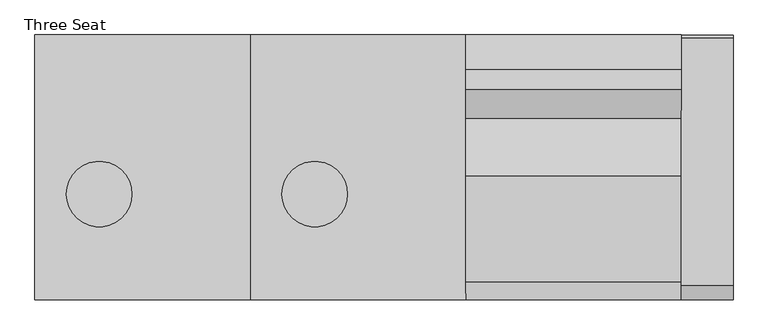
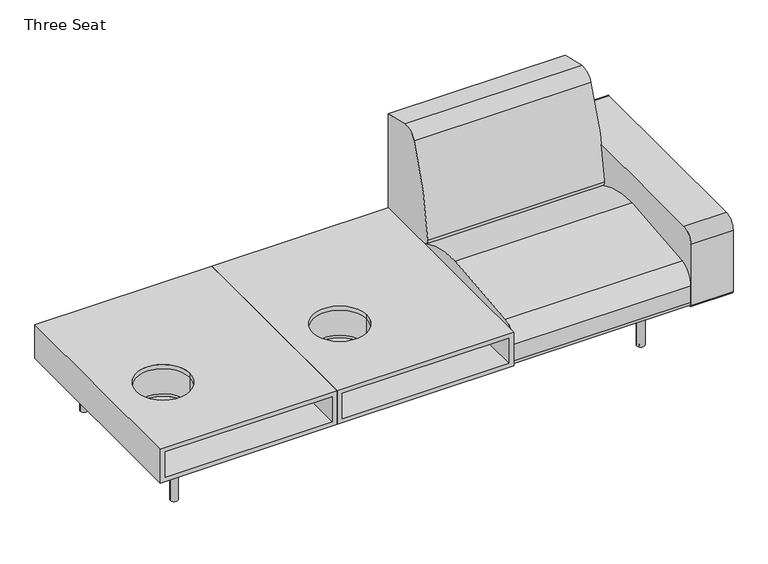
"""IFC4 building model written with IfcOpenShell, lengths in millimetres: furniture geometry, Coalesse_AM_Seating_LoungeChair_Sistema_LegBase_ThreeSeat : Three Seat."""

from ifc_helpers import new_model, si_unit, point, frame, frame_2d, origin, origin_with_axes, place, context, project, spatial, polyline, circle_curve, trimmed, segment, composite_curve, outline, extrude, source, transform, mapped, element, save
from ifc_brep_helpers import plane_surface, revolved_surface, advanced_brep


def three_seat_b5197ebf(model_context):
    return source(origin(), model_context, "Body", "SolidModel", [
        advanced_brep(
        [(-353.0071698, -461.2704381, 336.5211742), (-353.0071698, -461.2704381, 223.173587), (-353.0071698, 459.4795619, 223.173587), (-353.0071698, 459.4795619, 336.5211742), (353.6069667, -461.2704381, 336.5211742), (353.6069667, 459.4795619, 336.5211742), (-37.7047777, -93.7879891, 336.5211742), (-265.0667966, -93.7879891, 336.5211742), (374.4965227, -461.2704381, 354.7774), (-374.8034773, -461.2704381, 354.7774), (-374.8034773, -461.2704381, 204.47), (374.4965227, -461.2704381, 204.47), (353.6069667, -461.2704381, 223.173587), (374.4965227, 459.4795619, 354.7774), (374.4965227, 459.4795619, 204.47), (-374.8034773, 459.4795619, 204.47), (-374.8034773, 459.4795619, 354.7774), (353.6069667, 459.4795619, 223.173587), (-265.0667966, -93.7879891, 354.7774), (-37.7047777, -93.7879891, 354.7774), (-265.0667966, -93.7879891, 223.173587), (-37.7047777, -93.7879891, 223.173587), (-265.0667966, -93.7879891, 212.4123377), (-37.7047777, -93.7879891, 212.4123377)],
        [
            (0, 1),
            (1, 2),
            (2, 3),
            (3, 0),
            (4, 0),
            (3, 5),
            (5, 4),
            (6, 7, circle_curve(frame((-151.3857872, -93.7879891, 336.5211742), z_axis=(0.0, 0.0, 1.0), x_axis=(1.0, 0.0, 0.0)), 113.6810095)),
            (7, 6, circle_curve(frame((-151.3857872, -93.7879891, 336.5211742), z_axis=(0.0, 0.0, 1.0), x_axis=(1.0, 0.0, 0.0)), 113.6810095)),
            (8, 9),
            (9, 10),
            (10, 11),
            (11, 8),
            (4, 12),
            (12, 1),
            (13, 14),
            (14, 15),
            (15, 16),
            (16, 13),
            (2, 17),
            (17, 5),
            (8, 13),
            (16, 9),
            (18, 19, circle_curve(frame((-151.3857872, -93.7879891, 354.7774), z_axis=(0.0, 0.0, -1.0), x_axis=(1.0, 0.0, 0.0)), 113.6810095)),
            (19, 18, circle_curve(frame((-151.3857872, -93.7879891, 354.7774), z_axis=(0.0, 0.0, -1.0), x_axis=(1.0, 0.0, 0.0)), 113.6810095)),
            (15, 10),
            (14, 11),
            (17, 12),
            (20, 21, circle_curve(frame((-151.3857872, -93.7879891, 223.173587), z_axis=(0.0, 0.0, -1.0), x_axis=(1.0, 0.0, 0.0)), 113.6810095)),
            (21, 20, circle_curve(frame((-151.3857872, -93.7879891, 223.173587), z_axis=(0.0, 0.0, -1.0), x_axis=(1.0, 0.0, 0.0)), 113.6810095)),
            (22, 23, circle_curve(frame((-151.3857872, -93.7879891, 212.4123377), z_axis=(0.0, 0.0, 1.0), x_axis=(1.0, 0.0, 0.0)), 113.6810095)),
            (23, 22, circle_curve(frame((-151.3857872, -93.7879891, 212.4123377), z_axis=(0.0, 0.0, 1.0), x_axis=(1.0, 0.0, 0.0)), 113.6810095)),
            (23, 21),
            (20, 22),
            (18, 7),
            (6, 19),
        ],
        [
            plane_surface(frame((-353.0071698, -461.2704381, 223.173587), z_axis=(1.0, 0.0, 0.0), x_axis=(0.0, 1.0, 0.0))),
            plane_surface(frame((-353.0071698, -461.2704381, 336.5211742), z_axis=(0.0, 0.0, -1.0), x_axis=(0.0, 1.0, 0.0))),
            plane_surface(frame((-371.2653576, -461.2704381, 354.7774), z_axis=(0.0, -1.0, 0.0), x_axis=(-1.0, 0.0, 0.0))),
            plane_surface(frame((-371.2653576, 459.4795619, 354.7774), z_axis=(0.0, 1.0, 0.0), x_axis=(1.0, 0.0, 0.0))),
            plane_surface(frame((374.4965227, -461.2704381, 354.7774), z_axis=(0.0, 0.0, 1.0), x_axis=(0.0, 1.0, 0.0))),
            plane_surface(frame((-374.8034773, -461.2704381, 354.7774), z_axis=(-1.0, 0.0, 0.0), x_axis=(0.0, 1.0, 0.0))),
            plane_surface(frame((-374.8034773, -461.2704381, 204.47), z_axis=(0.0, 0.0, -1.0), x_axis=(0.0, 1.0, 0.0))),
            plane_surface(frame((374.4965227, -461.2704381, 204.47), z_axis=(1.0, 0.0, 0.0), x_axis=(0.0, 1.0, 0.0))),
            plane_surface(frame((353.6069667, -461.2704381, 336.5211742), z_axis=(-1.0, 0.0, 0.0), x_axis=(0.0, 1.0, 0.0))),
            plane_surface(frame((353.6069667, -461.2704381, 223.173587), z_axis=(0.0, 0.0, 1.0), x_axis=(0.0, 1.0, 0.0))),
            plane_surface(frame((-37.7047777, -93.7879891, 212.4123377), z_axis=(0.0, 0.0, 1.0), x_axis=(0.0, -1.0, 0.0))),
            revolved_surface(polyline([(-37.70477770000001, -93.7879891, 212.4123377), (-37.70477770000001, -93.7879891, 223.173587)]), (-151.3857872, -93.7879891, 446.6108932), (0.0, 0.0, -1.0)),
            revolved_surface(polyline([(-37.70477770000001, -93.7879891, 336.5211742), (-37.70477770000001, -93.7879891, 354.7774)]), (-151.3857872, -93.7879891, 446.6108932), (0.0, 0.0, -1.0)),
        ],
        [
            (0, [[1, 2, 3, 4]]),
            (1, [[5, -4, 6, 7], [8, 9]]),
            (2, [[10, 11, 12, 13], [14, 15, -1, -5]]),
            (3, [[16, 17, 18, 19], [-6, -3, 20, 21]]),
            (4, [[-10, 22, -19, 23], [24, 25]]),
            (5, [[-11, -23, -18, 26]]),
            (6, [[-12, -26, -17, 27]]),
            (7, [[-13, -27, -16, -22]]),
            (8, [[-14, -7, -21, 28]]),
            (9, [[-15, -28, -20, -2], [29, 30]]),
            (10, [[31, 32]]),
            (11, [[-32, 33, -29, 34]]),
            (12, [[35, -8, 36, -24]]),
            (12, [[-35, -25, -36, -9]]),
            (11, [[-31, -34, -30, -33]]),
        ],
    ),
        extrude(outline(composite_curve([segment(trimmed(circle_curve(frame_2d((-151.3857872, -93.7879891)), 127.924967), [point((-279.3107542, -93.7879891))], [point((-23.4608201, -93.7879891))], False, "CARTESIAN"), True, "CONTINUOUS"), segment(trimmed(circle_curve(frame_2d((-151.3857872, -93.7879891)), 127.924967), [point((-23.4608201, -93.7879891))], [point((-279.3107542, -93.7879891))], False, "CARTESIAN"), True, "CONTINUOUS")], self_intersect=False), holes=[composite_curve([segment(trimmed(circle_curve(frame_2d((-151.3857872, -93.7879891)), 113.6810095), [point((-265.0667966, -93.7879891))], [point((-37.7047777, -93.7879891))], True, "CARTESIAN"), True, "CONTINUOUS"), segment(trimmed(circle_curve(frame_2d((-151.3857872, -93.7879891)), 113.6810095), [point((-37.7047777, -93.7879891))], [point((-265.0667966, -93.7879891))], True, "CARTESIAN"), True, "CONTINUOUS")], self_intersect=False)]), frame((0.0, 0.0, 212.4123377), z_axis=(0.0, 0.0, 1.0), x_axis=(1.0, 0.0, 0.0)), (0.0, 0.0, 1.0), 124.1087275),
        advanced_brep(
        [(1102.9069667, -461.2704381, 336.5211742), (396.2928302, -461.2704381, 336.5211742), (396.2928302, 459.4795619, 336.5211742), (1102.9069667, 459.4795619, 336.5211742), (711.5952223, -93.7879891, 336.5211742), (484.2332034, -93.7879891, 336.5211742), (396.2928302, -461.2704381, 223.173587), (396.2928302, 459.4795619, 223.173587), (1123.7965227, -461.2704381, 354.7774), (374.4965227, -461.2704381, 354.7774), (374.4965227, -461.2704381, 204.47), (1123.7965227, -461.2704381, 204.47), (1102.9069667, -461.2704381, 223.173587), (1123.7965227, 459.4795619, 354.7774), (1123.7965227, 459.4795619, 204.47), (374.4965227, 459.4795619, 204.47), (374.4965227, 459.4795619, 354.7774), (1102.9069667, 459.4795619, 223.173587), (484.2332034, -93.7879891, 354.7774), (711.5952223, -93.7879891, 354.7774), (484.2332034, -93.7879891, 223.173587), (711.5952223, -93.7879891, 223.173587), (484.2332034, -93.7879891, 212.4123377), (711.5952223, -93.7879891, 212.4123377)],
        [
            (0, 1),
            (1, 2),
            (2, 3),
            (3, 0),
            (4, 5, circle_curve(frame((597.9142128, -93.7879891, 336.5211742), z_axis=(0.0, 0.0, 1.0), x_axis=(1.0, 0.0, 0.0)), 113.6810095)),
            (5, 4, circle_curve(frame((597.9142128, -93.7879891, 336.5211742), z_axis=(0.0, 0.0, 1.0), x_axis=(1.0, 0.0, 0.0)), 113.6810095)),
            (1, 6),
            (6, 7),
            (7, 2),
            (8, 9),
            (9, 10),
            (10, 11),
            (11, 8),
            (0, 12),
            (12, 6),
            (13, 14),
            (14, 15),
            (15, 16),
            (16, 13),
            (7, 17),
            (17, 3),
            (8, 13),
            (16, 9),
            (18, 19, circle_curve(frame((597.9142128, -93.7879891, 354.7774), z_axis=(0.0, 0.0, -1.0), x_axis=(1.0, 0.0, 0.0)), 113.6810095)),
            (19, 18, circle_curve(frame((597.9142128, -93.7879891, 354.7774), z_axis=(0.0, 0.0, -1.0), x_axis=(1.0, 0.0, 0.0)), 113.6810095)),
            (15, 10),
            (14, 11),
            (17, 12),
            (20, 21, circle_curve(frame((597.9142128, -93.7879891, 223.173587), z_axis=(0.0, 0.0, -1.0), x_axis=(1.0, 0.0, 0.0)), 113.6810095)),
            (21, 20, circle_curve(frame((597.9142128, -93.7879891, 223.173587), z_axis=(0.0, 0.0, -1.0), x_axis=(1.0, 0.0, 0.0)), 113.6810095)),
            (22, 23, circle_curve(frame((597.9142128, -93.7879891, 212.4123377), z_axis=(0.0, 0.0, 1.0), x_axis=(1.0, 0.0, 0.0)), 113.6810095)),
            (23, 22, circle_curve(frame((597.9142128, -93.7879891, 212.4123377), z_axis=(0.0, 0.0, 1.0), x_axis=(1.0, 0.0, 0.0)), 113.6810095)),
            (23, 21),
            (20, 22),
            (18, 5),
            (4, 19),
        ],
        [
            plane_surface(frame((396.2928302, -461.2704381, 336.5211742), z_axis=(0.0, 0.0, -1.0), x_axis=(0.0, 1.0, 0.0))),
            plane_surface(frame((396.2928302, -461.2704381, 223.173587), z_axis=(1.0, 0.0, 0.0), x_axis=(0.0, 1.0, 0.0))),
            plane_surface(frame((378.0346424, -461.2704381, 354.7774), z_axis=(0.0, -1.0, 0.0), x_axis=(-1.0, 0.0, 0.0))),
            plane_surface(frame((378.0346424, 459.4795619, 354.7774), z_axis=(0.0, 1.0, 0.0), x_axis=(1.0, 0.0, 0.0))),
            plane_surface(frame((1123.7965227, -461.2704381, 354.7774), z_axis=(0.0, 0.0, 1.0), x_axis=(0.0, 1.0, 0.0))),
            plane_surface(frame((374.4965227, -461.2704381, 354.7774), z_axis=(-1.0, 0.0, 0.0), x_axis=(0.0, 1.0, 0.0))),
            plane_surface(frame((374.4965227, -461.2704381, 204.47), z_axis=(0.0, 0.0, -1.0), x_axis=(0.0, 1.0, 0.0))),
            plane_surface(frame((1123.7965227, -461.2704381, 204.47), z_axis=(1.0, 0.0, 0.0), x_axis=(0.0, 1.0, 0.0))),
            plane_surface(frame((1102.9069667, -461.2704381, 336.5211742), z_axis=(-1.0, 0.0, 0.0), x_axis=(0.0, 1.0, 0.0))),
            plane_surface(frame((1102.9069667, -461.2704381, 223.173587), z_axis=(0.0, 0.0, 1.0), x_axis=(0.0, 1.0, 0.0))),
            plane_surface(frame((711.5952223, -93.7879891, 212.4123377), z_axis=(0.0, 0.0, 1.0), x_axis=(0.0, -1.0, 0.0))),
            revolved_surface(polyline([(711.5952222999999, -93.7879891, 212.41233770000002), (711.5952222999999, -93.7879891, 223.173587)]), (597.9142128, -93.7879891, 496.2226929), (0.0, 0.0, -1.0)),
            revolved_surface(polyline([(711.5952222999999, -93.7879891, 336.5211742), (711.5952222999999, -93.7879891, 354.7774)]), (597.9142128, -93.7879891, 496.2226929), (0.0, 0.0, -1.0)),
        ],
        [
            (0, [[1, 2, 3, 4], [5, 6]]),
            (1, [[7, 8, 9, -2]]),
            (2, [[10, 11, 12, 13], [14, 15, -7, -1]]),
            (3, [[16, 17, 18, 19], [-3, -9, 20, 21]]),
            (4, [[-10, 22, -19, 23], [24, 25]]),
            (5, [[-11, -23, -18, 26]]),
            (6, [[-12, -26, -17, 27]]),
            (7, [[-13, -27, -16, -22]]),
            (8, [[-14, -4, -21, 28]]),
            (9, [[-15, -28, -20, -8], [29, 30]]),
            (10, [[31, 32]]),
            (11, [[-32, 33, -29, 34]]),
            (12, [[35, -5, 36, -24]]),
            (11, [[-31, -34, -30, -33]]),
            (12, [[-35, -25, -36, -6]]),
        ],
    ),
        extrude(outline(composite_curve([segment(trimmed(circle_curve(frame_2d((597.9142128, -93.7879891)), 127.924967), [point((469.9892458, -93.7879891))], [point((725.8391799, -93.7879891))], False, "CARTESIAN"), True, "CONTINUOUS"), segment(trimmed(circle_curve(frame_2d((597.9142128, -93.7879891)), 127.924967), [point((725.8391799, -93.7879891))], [point((469.9892458, -93.7879891))], False, "CARTESIAN"), True, "CONTINUOUS")], self_intersect=False), holes=[composite_curve([segment(trimmed(circle_curve(frame_2d((597.9142128, -93.7879891)), 113.6810095), [point((484.2332034, -93.7879891))], [point((711.5952223, -93.7879891))], True, "CARTESIAN"), True, "CONTINUOUS"), segment(trimmed(circle_curve(frame_2d((597.9142128, -93.7879891)), 113.6810095), [point((711.5952223, -93.7879891))], [point((484.2332034, -93.7879891))], True, "CARTESIAN"), True, "CONTINUOUS")], self_intersect=False)]), frame((0.0, 0.0, 212.4123377), z_axis=(0.0, 0.0, 1.0), x_axis=(1.0, 0.0, 0.0)), (0.0, 0.0, 1.0), 124.1087275),
        extrude(outline(composite_curve([segment(polyline([(-461.2704381, 212.4103341), (-461.2704381, 487.0244726)]), True, "CONTINUOUS"), segment(trimmed(circle_curve(frame_2d((-410.4704381, 487.0244726)), 50.8), [point((-461.2704381, 487.0244726))], [point((-410.4704381, 537.8244726))], False, "CARTESIAN"), True, "CONTINUOUS"), segment(polyline([(-410.4704381, 537.8244726), (450.1139321, 537.8244726)]), True, "CONTINUOUS"), segment(trimmed(circle_curve(frame_2d((450.1139321, 530.2044726)), 7.62), [point((450.1139321, 537.8244726))], [point((457.7339321, 530.2044726))], False, "CARTESIAN"), True, "CONTINUOUS"), segment(polyline([(457.7339321, 530.2044726), (457.7339321, 217.4903341)]), True, "CONTINUOUS"), segment(trimmed(circle_curve(frame_2d((445.0339321, 217.4903341)), 12.7), [point((457.7339321, 217.4903341))], [point((445.0339321, 204.7903341))], False, "CARTESIAN"), True, "CONTINUOUS"), segment(polyline([(445.0339321, 204.7903341), (-453.6504381, 204.7903341)]), True, "CONTINUOUS"), segment(trimmed(circle_curve(frame_2d((-453.6504381, 212.4103341)), 7.62), [point((-453.6504381, 204.7903341))], [point((-461.2704381, 212.4103341))], False, "CARTESIAN"), True, "CONTINUOUS")], self_intersect=False)), frame((1873.0965227, 0.0, 0.0), z_axis=(1.0, 0.0, 0.0), x_axis=(0.0, 1.0, 0.0)), (0.0, 0.0, 1.0), 179.5663651),
        extrude(outline(composite_curve([segment(polyline([(459.4795619, 775.8234697), (459.4795619, 228.1929806)]), True, "CONTINUOUS"), segment(trimmed(circle_curve(frame_2d((191.495971, 228.1929806)), 267.983591), [point((459.4795619, 228.1929806))], [point((458.9860775, 211.937276))], False, "CARTESIAN"), True, "CONTINUOUS"), segment(polyline([(458.9860775, 211.937276), (183.8457951, 360.6719742)]), True, "CONTINUOUS"), segment(trimmed(circle_curve(frame_2d((195.9245701, 383.0161724)), 25.4), [point((183.8457951, 360.6719742))], [point((170.6161698, 385.1713698))], False, "CARTESIAN"), True, "CONTINUOUS"), segment(trimmed(circle_curve(frame_2d((1327.5544182, 286.6495247)), 1161.1256023), [point((170.6161698, 385.1713698))], [point((271.1088001, 768.4537592))], False, "CARTESIAN"), True, "CONTINUOUS"), segment(trimmed(circle_curve(frame_2d((326.5730192, 743.158661)), 60.96), [point((271.1088001, 768.4537592))], [point((339.9143278, 802.6408523))], False, "CARTESIAN"), True, "CONTINUOUS"), segment(polyline([(339.9143278, 802.6408523), (459.4795619, 775.8234697)]), True, "CONTINUOUS")], self_intersect=False)), frame((1123.7965227, 0.0, 0.0), z_axis=(1.0, 0.0, 0.0), x_axis=(0.0, 1.0, 0.0)), (0.0, 0.0, 1.0), 749.3),
        extrude(outline(composite_curve([segment(trimmed(circle_curve(frame_2d((-438.9184381, 226.822)), 22.352), [point((-438.9184381, 204.47))], [point((-461.2704381, 226.822))], False, "CARTESIAN"), True, "CONTINUOUS"), segment(polyline([(-461.2704381, 226.822), (-461.2704381, 301.4421993)]), True, "CONTINUOUS"), segment(trimmed(circle_curve(frame_2d((-385.0704381, 301.4421993)), 76.2), [point((-461.2704381, 301.4421993))], [point((-398.9277015, 376.3716077))], False, "CARTESIAN"), True, "CONTINUOUS"), segment(trimmed(circle_curve(frame_2d((2.2103559, -1792.6740646)), 2205.8265729), [point((-398.9277015, 376.3716077))], [point((-31.1968175, 412.8995185))], False, "CARTESIAN"), True, "CONTINUOUS"), segment(trimmed(circle_curve(frame_2d((-24.5128424, -28.3829182)), 441.333054), [point((-31.1968175, 412.8995185))], [point((184.5757008, 360.2774035))], False, "CARTESIAN"), True, "CONTINUOUS"), segment(polyline([(184.5757008, 360.2774035), (458.9860775, 211.937276)]), True, "CONTINUOUS"), segment(trimmed(circle_curve(frame_2d((442.3266309, 226.7871991)), 22.3171991), [point((458.9860775, 211.937276))], [point((442.3266309, 204.47))], False, "CARTESIAN"), True, "CONTINUOUS"), segment(polyline([(442.3266309, 204.47), (-438.9184381, 204.47)]), True, "CONTINUOUS")], self_intersect=False)), frame((1123.7965227, 0.0, 0.0), z_axis=(1.0, 0.0, 0.0), x_axis=(0.0, 1.0, 0.0)), (0.0, 0.0, 1.0), 749.3),
        extrude(outline(composite_curve([segment(trimmed(circle_curve(frame_2d((1738.4765227, 335.9943389)), 6.096), [point((1744.5725227, 335.9943389))], [point((1732.3805227, 335.9943389))], False, "CARTESIAN"), True, "CONTINUOUS"), segment(trimmed(circle_curve(frame_2d((1738.4765227, 335.9943389)), 6.096), [point((1732.3805227, 335.9943389))], [point((1744.5725227, 335.9943389))], False, "CARTESIAN"), True, "CONTINUOUS")], self_intersect=False)), origin_with_axes(), (0.0, 0.0, 1.0), 4.3662291),
        extrude(outline(composite_curve([segment(trimmed(circle_curve(frame_2d((1738.4765227, -327.2630889)), 6.096), [point((1744.5725227, -327.2630889))], [point((1732.3805227, -327.2630889))], False, "CARTESIAN"), True, "CONTINUOUS"), segment(trimmed(circle_curve(frame_2d((1738.4765227, -327.2630889)), 6.096), [point((1732.3805227, -327.2630889))], [point((1744.5725227, -327.2630889))], False, "CARTESIAN"), True, "CONTINUOUS")], self_intersect=False)), origin_with_axes(), (0.0, 0.0, 1.0), 4.3662291),
        extrude(outline(composite_curve([segment(polyline([(157.0399209, 1751.056375), (201.7356243, 1751.056375)]), True, "CONTINUOUS"), segment(trimmed(circle_curve(frame_2d((201.7356243, 1748.008375)), 3.048), [point((201.7356243, 1751.056375))], [point((204.7836243, 1748.008375))], False, "CARTESIAN"), True, "CONTINUOUS"), segment(polyline([(204.7836243, 1748.008375), (204.7836243, 1728.666199)]), True, "CONTINUOUS"), segment(trimmed(circle_curve(frame_2d((201.7356243, 1728.666199)), 3.048), [point((204.7836243, 1728.666199))], [point((201.7356243, 1725.618199))], False, "CARTESIAN"), True, "CONTINUOUS"), segment(polyline([(201.7356243, 1725.618199), (157.1249936, 1725.618199)]), True, "CONTINUOUS"), segment(trimmed(circle_curve(frame_2d((157.1249936, 1728.7512718)), 3.1330728), [point((157.1249936, 1725.618199))], [point((153.9919209, 1728.7512718))], False, "CARTESIAN"), True, "CONTINUOUS"), segment(polyline([(153.9919209, 1728.7512718), (153.9919209, 1748.008375)]), True, "CONTINUOUS"), segment(trimmed(circle_curve(frame_2d((157.0399209, 1748.008375)), 3.048), [point((153.9919209, 1748.008375))], [point((157.0399209, 1751.056375))], False, "CARTESIAN"), True, "CONTINUOUS")], self_intersect=False)), frame((0.0, 222.3519802, 0.0), z_axis=(0.0, 1.0, 0.0), x_axis=(0.0, 0.0, 1.0)), (0.0, 0.0, 1.0), 92.6273161),
        extrude(outline(composite_curve([segment(polyline([(157.0399209, 1751.056375), (201.7356243, 1751.056375)]), True, "CONTINUOUS"), segment(trimmed(circle_curve(frame_2d((201.7356243, 1748.008375)), 3.048), [point((201.7356243, 1751.056375))], [point((204.7836243, 1748.008375))], False, "CARTESIAN"), True, "CONTINUOUS"), segment(polyline([(204.7836243, 1748.008375), (204.7836243, 1728.666199)]), True, "CONTINUOUS"), segment(trimmed(circle_curve(frame_2d((201.7356243, 1728.666199)), 3.048), [point((204.7836243, 1728.666199))], [point((201.7356243, 1725.618199))], False, "CARTESIAN"), True, "CONTINUOUS"), segment(polyline([(201.7356243, 1725.618199), (157.1249936, 1725.618199)]), True, "CONTINUOUS"), segment(trimmed(circle_curve(frame_2d((157.1249936, 1728.7512718)), 3.1330728), [point((157.1249936, 1725.618199))], [point((153.9919209, 1728.7512718))], False, "CARTESIAN"), True, "CONTINUOUS"), segment(polyline([(153.9919209, 1728.7512718), (153.9919209, 1748.008375)]), True, "CONTINUOUS"), segment(trimmed(circle_curve(frame_2d((157.0399209, 1748.008375)), 3.048), [point((153.9919209, 1748.008375))], [point((157.0399209, 1751.056375))], False, "CARTESIAN"), True, "CONTINUOUS")], self_intersect=False)), frame((0.0, -314.9792963, 0.0), z_axis=(0.0, 1.0, 0.0), x_axis=(0.0, 0.0, 1.0)), (0.0, 0.0, 1.0), 92.6273161),
        extrude(outline(composite_curve([segment(trimmed(circle_curve(frame_2d((176.3356606, 1715.8259944)), 3.048), [point((179.3836606, 1715.8259944))], [point((176.3356606, 1712.7779944))], False, "CARTESIAN"), True, "CONTINUOUS"), segment(polyline([(176.3356606, 1712.7779944), (157.0399209, 1712.7779944)]), True, "CONTINUOUS"), segment(trimmed(circle_curve(frame_2d((157.0399209, 1715.8259944)), 3.048), [point((157.0399209, 1712.7779944))], [point((153.9919209, 1715.8259944))], False, "CARTESIAN"), True, "CONTINUOUS"), segment(polyline([(153.9919209, 1715.8259944), (153.9919209, 1760.5135501)]), True, "CONTINUOUS"), segment(trimmed(circle_curve(frame_2d((157.056462, 1760.5135501)), 3.0645412), [point((153.9919209, 1760.5135501))], [point((157.056462, 1763.5780913))], False, "CARTESIAN"), True, "CONTINUOUS"), segment(polyline([(157.056462, 1763.5780913), (176.3356606, 1763.5780913)]), True, "CONTINUOUS"), segment(trimmed(circle_curve(frame_2d((176.3356606, 1760.5300913)), 3.048), [point((176.3356606, 1763.5780913))], [point((179.3836606, 1760.5300913))], False, "CARTESIAN"), True, "CONTINUOUS"), segment(polyline([(179.3836606, 1760.5300913), (179.3836606, 1715.8259944)]), True, "CONTINUOUS")], self_intersect=False)), frame((0.0, -222.3519802, 0.0), z_axis=(0.0, 1.0, 0.0), x_axis=(0.0, 0.0, 1.0)), (0.0, 0.0, 1.0), 444.7039604),
        extrude(outline(composite_curve([segment(trimmed(circle_curve(frame_2d((1738.4765227, 332.3095741)), 16.51), [point((1754.9865227, 332.3095741))], [point((1721.9665227, 332.3095741))], False, "CARTESIAN"), True, "CONTINUOUS"), segment(trimmed(circle_curve(frame_2d((1738.4765227, 332.3095741)), 16.51), [point((1721.9665227, 332.3095741))], [point((1754.9865227, 332.3095741))], False, "CARTESIAN"), True, "CONTINUOUS")], self_intersect=False)), frame((0.0, 0.0, 4.3662291), z_axis=(0.0, 0.0, 1.0), x_axis=(1.0, 0.0, 0.0)), (0.0, 0.0, 1.0), 200.1037709),
        extrude(outline(composite_curve([segment(trimmed(circle_curve(frame_2d((1738.0796477, -327.5470741)), 16.51), [point((1754.5896477, -327.5470741))], [point((1721.5696477, -327.5470741))], False, "CARTESIAN"), True, "CONTINUOUS"), segment(trimmed(circle_curve(frame_2d((1738.0796477, -327.5470741)), 16.51), [point((1721.5696477, -327.5470741))], [point((1754.5896477, -327.5470741))], False, "CARTESIAN"), True, "CONTINUOUS")], self_intersect=False)), frame((0.0, 0.0, 4.3662291), z_axis=(0.0, 0.0, 1.0), x_axis=(1.0, 0.0, 0.0)), (0.0, 0.0, 1.0), 200.1037709),
        extrude(outline(composite_curve([segment(trimmed(circle_curve(frame_2d((-240.1834773, 335.9943389)), 6.096), [point((-246.2794773, 335.9943389))], [point((-234.0874773, 335.9943389))], False, "CARTESIAN"), True, "CONTINUOUS"), segment(trimmed(circle_curve(frame_2d((-240.1834773, 335.9943389)), 6.096), [point((-234.0874773, 335.9943389))], [point((-246.2794773, 335.9943389))], False, "CARTESIAN"), True, "CONTINUOUS")], self_intersect=False)), origin_with_axes(), (0.0, 0.0, 1.0), 4.3662291),
        extrude(outline(composite_curve([segment(trimmed(circle_curve(frame_2d((-240.1834773, -327.2630889)), 6.096), [point((-246.2794773, -327.2630889))], [point((-234.0874773, -327.2630889))], False, "CARTESIAN"), True, "CONTINUOUS"), segment(trimmed(circle_curve(frame_2d((-240.1834773, -327.2630889)), 6.096), [point((-234.0874773, -327.2630889))], [point((-246.2794773, -327.2630889))], False, "CARTESIAN"), True, "CONTINUOUS")], self_intersect=False)), origin_with_axes(), (0.0, 0.0, 1.0), 4.3662291),
        extrude(outline(composite_curve([segment(trimmed(circle_curve(frame_2d((157.0399209, -249.7153296)), 3.048), [point((157.0399209, -252.7633296))], [point((153.9919209, -249.7153296))], False, "CARTESIAN"), True, "CONTINUOUS"), segment(polyline([(153.9919209, -249.7153296), (153.9919209, -230.4582264)]), True, "CONTINUOUS"), segment(trimmed(circle_curve(frame_2d((157.1249936, -230.4582264)), 3.1330728), [point((153.9919209, -230.4582264))], [point((157.1249936, -227.3251537))], False, "CARTESIAN"), True, "CONTINUOUS"), segment(polyline([(157.1249936, -227.3251537), (201.7356243, -227.3251537)]), True, "CONTINUOUS"), segment(trimmed(circle_curve(frame_2d((201.7356243, -230.3731537)), 3.048), [point((201.7356243, -227.3251537))], [point((204.7836243, -230.3731537))], False, "CARTESIAN"), True, "CONTINUOUS"), segment(polyline([(204.7836243, -230.3731537), (204.7836243, -249.7153296)]), True, "CONTINUOUS"), segment(trimmed(circle_curve(frame_2d((201.7356243, -249.7153296)), 3.048), [point((204.7836243, -249.7153296))], [point((201.7356243, -252.7633296))], False, "CARTESIAN"), True, "CONTINUOUS"), segment(polyline([(201.7356243, -252.7633296), (157.0399209, -252.7633296)]), True, "CONTINUOUS")], self_intersect=False)), frame((0.0, 222.3519802, 0.0), z_axis=(0.0, 1.0, 0.0), x_axis=(0.0, 0.0, 1.0)), (0.0, 0.0, 1.0), 92.6273161),
        extrude(outline(composite_curve([segment(trimmed(circle_curve(frame_2d((157.0399209, -249.7153296)), 3.048), [point((157.0399209, -252.7633296))], [point((153.9919209, -249.7153296))], False, "CARTESIAN"), True, "CONTINUOUS"), segment(polyline([(153.9919209, -249.7153296), (153.9919209, -230.4582264)]), True, "CONTINUOUS"), segment(trimmed(circle_curve(frame_2d((157.1249936, -230.4582264)), 3.1330728), [point((153.9919209, -230.4582264))], [point((157.1249936, -227.3251537))], False, "CARTESIAN"), True, "CONTINUOUS"), segment(polyline([(157.1249936, -227.3251537), (201.7356243, -227.3251537)]), True, "CONTINUOUS"), segment(trimmed(circle_curve(frame_2d((201.7356243, -230.3731537)), 3.048), [point((201.7356243, -227.3251537))], [point((204.7836243, -230.3731537))], False, "CARTESIAN"), True, "CONTINUOUS"), segment(polyline([(204.7836243, -230.3731537), (204.7836243, -249.7153296)]), True, "CONTINUOUS"), segment(trimmed(circle_curve(frame_2d((201.7356243, -249.7153296)), 3.048), [point((204.7836243, -249.7153296))], [point((201.7356243, -252.7633296))], False, "CARTESIAN"), True, "CONTINUOUS"), segment(polyline([(201.7356243, -252.7633296), (157.0399209, -252.7633296)]), True, "CONTINUOUS")], self_intersect=False)), frame((0.0, -314.9792963, 0.0), z_axis=(0.0, 1.0, 0.0), x_axis=(0.0, 0.0, 1.0)), (0.0, 0.0, 1.0), 92.6273161),
        extrude(outline(composite_curve([segment(polyline([(179.3836606, -217.532949), (179.3836606, -262.2370459)]), True, "CONTINUOUS"), segment(trimmed(circle_curve(frame_2d((176.3356606, -262.2370459)), 3.048), [point((179.3836606, -262.2370459))], [point((176.3356606, -265.2850459))], False, "CARTESIAN"), True, "CONTINUOUS"), segment(polyline([(176.3356606, -265.2850459), (157.056462, -265.2850459)]), True, "CONTINUOUS"), segment(trimmed(circle_curve(frame_2d((157.056462, -262.2205047)), 3.0645412), [point((157.056462, -265.2850459))], [point((153.9919209, -262.2205047))], False, "CARTESIAN"), True, "CONTINUOUS"), segment(polyline([(153.9919209, -262.2205047), (153.9919209, -217.532949)]), True, "CONTINUOUS"), segment(trimmed(circle_curve(frame_2d((157.0399209, -217.532949)), 3.048), [point((153.9919209, -217.532949))], [point((157.0399209, -214.484949))], False, "CARTESIAN"), True, "CONTINUOUS"), segment(polyline([(157.0399209, -214.484949), (176.3356606, -214.484949)]), True, "CONTINUOUS"), segment(trimmed(circle_curve(frame_2d((176.3356606, -217.532949)), 3.048), [point((176.3356606, -214.484949))], [point((179.3836606, -217.532949))], False, "CARTESIAN"), True, "CONTINUOUS")], self_intersect=False)), frame((0.0, -222.3519802, 0.0), z_axis=(0.0, 1.0, 0.0), x_axis=(0.0, 0.0, 1.0)), (0.0, 0.0, 1.0), 444.7039604),
        extrude(outline(composite_curve([segment(trimmed(circle_curve(frame_2d((-240.1834773, 332.3095741)), 16.51), [point((-256.6934773, 332.3095741))], [point((-223.6734773, 332.3095741))], False, "CARTESIAN"), True, "CONTINUOUS"), segment(trimmed(circle_curve(frame_2d((-240.1834773, 332.3095741)), 16.51), [point((-223.6734773, 332.3095741))], [point((-256.6934773, 332.3095741))], False, "CARTESIAN"), True, "CONTINUOUS")], self_intersect=False)), frame((0.0, 0.0, 4.3662291), z_axis=(0.0, 0.0, 1.0), x_axis=(1.0, 0.0, 0.0)), (0.0, 0.0, 1.0), 200.1037709),
        extrude(outline(composite_curve([segment(trimmed(circle_curve(frame_2d((-239.7866023, -327.5470741)), 16.51), [point((-256.2966023, -327.5470741))], [point((-223.2766023, -327.5470741))], False, "CARTESIAN"), True, "CONTINUOUS"), segment(trimmed(circle_curve(frame_2d((-239.7866023, -327.5470741)), 16.51), [point((-223.2766023, -327.5470741))], [point((-256.2966023, -327.5470741))], False, "CARTESIAN"), True, "CONTINUOUS")], self_intersect=False)), frame((0.0, 0.0, 4.3662291), z_axis=(0.0, 0.0, 1.0), x_axis=(1.0, 0.0, 0.0)), (0.0, 0.0, 1.0), 200.1037709),
    ])


if __name__ == "__main__":
    model = new_model("IFC4")
    model_context = context("Model", 3, world=origin())
    ifc_project = project(units=[si_unit("LENGTHUNIT", "METRE", prefix="MILLI")], contexts=[model_context])
    site = spatial("IfcSite", under=ifc_project)
    building = spatial("IfcBuilding", under=site)
    placement = place(None, origin())
    three_seat_shape = three_seat_b5197ebf(model_context)
    element("IfcFurniture", 1, ObjectType="Coalesse_AM_Seating_LoungeChair_Sistema_LegBase_ThreeSeat : Three Seat", at=placement, inside=building, context=model_context, shape_type="MappedRepresentation", body=[
        mapped(three_seat_shape, transform((0.0, 0.0, 0.0), x_axis=(1.0, 0.0, 0.0), y_axis=(0.0, 1.0, 0.0), z_axis=(0.0, 0.0, 1.0))),
    ])
    save(model, "model.ifc")
